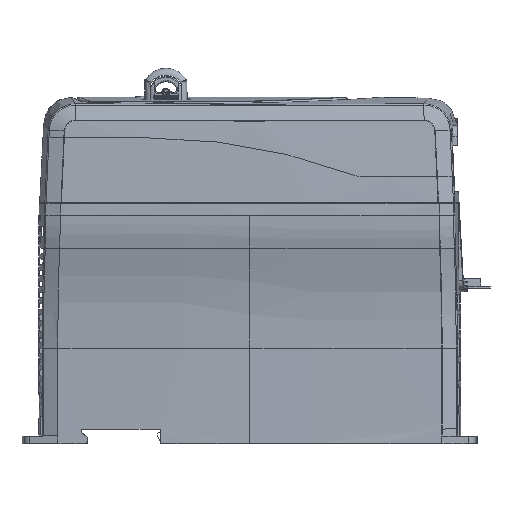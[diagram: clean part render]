
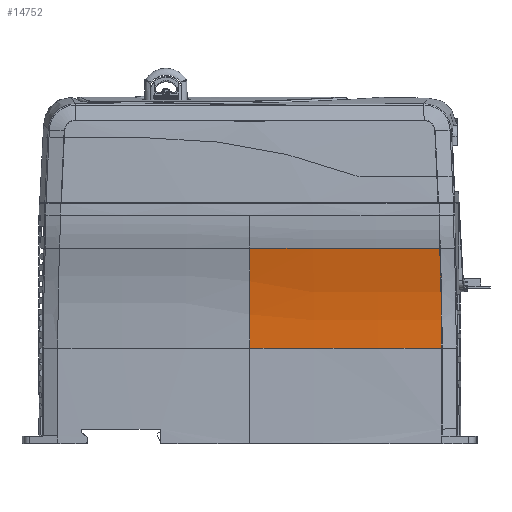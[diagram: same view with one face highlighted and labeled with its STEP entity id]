
A CAD part, left-side view. The second image highlights one B-rep face of the part: STEP entity #14752.
In plain terms, the highlighted toroidal (fillet/blend) face has major radius 2280.75 mm and minor radius 171.75 mm.
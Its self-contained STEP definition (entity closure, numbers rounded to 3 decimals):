
#8294=CARTESIAN_POINT('',(-41.815,-110.708,
87.932));
#8295=CARTESIAN_POINT('',(-37.829,-111.271,
73.32));
#8296=CARTESIAN_POINT('',(-35.797,-111.49,
58.155));
#8297=CARTESIAN_POINT('',(-35.797,-111.49,
43.));
#8299=CARTESIAN_POINT('',(2071.43,-25.02,43.));
#8300=DIRECTION('',(0.,0.,-1.));
#8301=DIRECTION('',(-0.999,-0.041,0.));
#8302=AXIS2_PLACEMENT_3D('',#8299,#8300,#8301);
#8304=CARTESIAN_POINT('',(-209.32,-25.09,
43.));
#8305=DIRECTION('',(0.,-1.,0.));
#8306=DIRECTION('',(1.,0.,0.));
#8307=AXIS2_PLACEMENT_3D('',#8304,#8305,#8306);
#8309=CARTESIAN_POINT('',(2071.43,-25.02,87.931));
#8310=DIRECTION('',(0.,0.,1.));
#8311=DIRECTION('',(-1.,0.,0.));
#8312=AXIS2_PLACEMENT_3D('',#8309,#8310,#8311);
#10939=CARTESIAN_POINT('',(-35.797,-111.49,
43.));
#10941=VERTEX_POINT('',#10939);
#10984=CARTESIAN_POINT('',(-41.815,-110.708,
87.932));
#10985=VERTEX_POINT('',#10984);
#11553=CARTESIAN_POINT('',(-37.57,-25.085,
43.));
#11554=VERTEX_POINT('',#11553);
#11579=CARTESIAN_POINT('',(-43.551,-25.085,
87.932));
#11581=VERTEX_POINT('',#11579);
#14739=CARTESIAN_POINT('',(2071.43,-25.02,
43.));
#14740=DIRECTION('',(0.,0.,-1.));
#14741=DIRECTION('',(-1.,0.001,0.));
#14742=AXIS2_PLACEMENT_3D('',#14739,#14740,#14741);
#14743=TOROIDAL_SURFACE('',#14742,2280.75,171.75);
#14744=ORIENTED_EDGE('',*,*,#14729,.T.);
#14745=ORIENTED_EDGE('',*,*,#12470,.T.);
#14747=ORIENTED_EDGE('',*,*,#14746,.T.);
#14749=ORIENTED_EDGE('',*,*,#14748,.T.);
#14750=EDGE_LOOP('',(#14744,#14745,#14747,#14749));
#14751=FACE_OUTER_BOUND('',#14750,.F.);
#14752=ADVANCED_FACE('',(#14751),#14743,.F.);
#8298=B_SPLINE_CURVE_WITH_KNOTS('',3,(#8294,#8295,#8296,#8297),.UNSPECIFIED.,
.F.,.F.,(4,4),(0.,1.),.UNSPECIFIED.);
#8303=CIRCLE('',#8302,2109.);
#8308=CIRCLE('',#8307,171.75);
#8313=CIRCLE('',#8312,2114.981);
#12470=EDGE_CURVE('',#10941,#11554,#8303,.T.);
#14729=EDGE_CURVE('',#10985,#10941,#8298,.T.);
#14746=EDGE_CURVE('',#11554,#11581,#8308,.T.);
#14748=EDGE_CURVE('',#11581,#10985,#8313,.T.);
